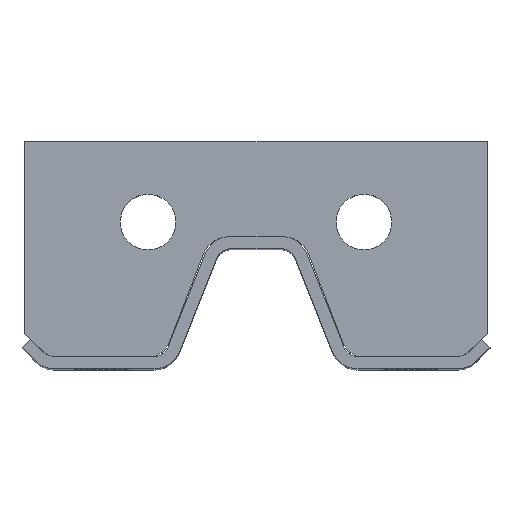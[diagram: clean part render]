
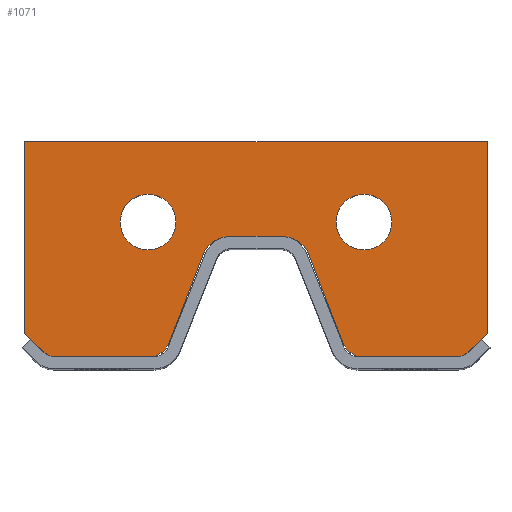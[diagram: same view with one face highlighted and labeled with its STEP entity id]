
A CAD part, top view. The second image highlights one B-rep face of the part: STEP entity #1071.
In plain terms, the highlighted planar face has unit normal (0, 0, 1).
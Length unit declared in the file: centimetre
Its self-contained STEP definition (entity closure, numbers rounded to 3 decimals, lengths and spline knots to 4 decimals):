
#42=FACE_BOUND('',#110,.T.);
#43=FACE_BOUND('',#111,.T.);
#53=FACE_OUTER_BOUND('',#109,.T.);
#109=EDGE_LOOP('',(#734,#735,#736,#737,#738,#739,#740,#741,#742,#743,#744,
#745,#746,#747,#748,#749,#750,#751));
#110=EDGE_LOOP('',(#752));
#111=EDGE_LOOP('',(#753));
#182=LINE('',#1589,#296);
#183=LINE('',#1593,#297);
#184=LINE('',#1597,#298);
#185=LINE('',#1601,#299);
#186=LINE('',#1603,#300);
#187=LINE('',#1605,#301);
#188=LINE('',#1607,#302);
#189=LINE('',#1609,#303);
#190=LINE('',#1613,#304);
#191=LINE('',#1617,#305);
#192=LINE('',#1621,#306);
#193=LINE('',#1622,#307);
#296=VECTOR('',#1260,0.1);
#297=VECTOR('',#1263,0.1);
#298=VECTOR('',#1266,0.1);
#299=VECTOR('',#1269,0.1);
#300=VECTOR('',#1270,0.1);
#301=VECTOR('',#1271,0.1);
#302=VECTOR('',#1272,0.1);
#303=VECTOR('',#1273,0.1);
#304=VECTOR('',#1276,0.1);
#305=VECTOR('',#1279,0.1);
#306=VECTOR('',#1282,0.1);
#307=VECTOR('',#1283,0.1);
#408=CIRCLE('',#1136,0.8);
#409=CIRCLE('',#1137,0.8);
#410=CIRCLE('',#1138,0.8);
#411=CIRCLE('',#1139,0.8);
#412=CIRCLE('',#1140,0.8);
#413=CIRCLE('',#1141,0.8);
#414=CIRCLE('',#1142,0.9);
#415=CIRCLE('',#1143,0.9);
#466=VERTEX_POINT('',#1587);
#467=VERTEX_POINT('',#1588);
#468=VERTEX_POINT('',#1590);
#469=VERTEX_POINT('',#1592);
#470=VERTEX_POINT('',#1594);
#471=VERTEX_POINT('',#1596);
#472=VERTEX_POINT('',#1598);
#473=VERTEX_POINT('',#1600);
#474=VERTEX_POINT('',#1602);
#475=VERTEX_POINT('',#1604);
#476=VERTEX_POINT('',#1606);
#477=VERTEX_POINT('',#1608);
#478=VERTEX_POINT('',#1610);
#479=VERTEX_POINT('',#1612);
#480=VERTEX_POINT('',#1614);
#481=VERTEX_POINT('',#1616);
#482=VERTEX_POINT('',#1618);
#483=VERTEX_POINT('',#1620);
#484=VERTEX_POINT('',#1623);
#485=VERTEX_POINT('',#1625);
#572=EDGE_CURVE('',#466,#467,#182,.T.);
#573=EDGE_CURVE('',#467,#468,#408,.T.);
#574=EDGE_CURVE('',#468,#469,#183,.T.);
#575=EDGE_CURVE('',#469,#470,#409,.T.);
#576=EDGE_CURVE('',#471,#470,#184,.T.);
#577=EDGE_CURVE('',#471,#472,#410,.T.);
#578=EDGE_CURVE('',#472,#473,#185,.T.);
#579=EDGE_CURVE('',#473,#474,#186,.T.);
#580=EDGE_CURVE('',#474,#475,#187,.T.);
#581=EDGE_CURVE('',#475,#476,#188,.T.);
#582=EDGE_CURVE('',#476,#477,#189,.T.);
#583=EDGE_CURVE('',#477,#478,#411,.T.);
#584=EDGE_CURVE('',#479,#478,#190,.T.);
#585=EDGE_CURVE('',#479,#480,#412,.T.);
#586=EDGE_CURVE('',#480,#481,#191,.T.);
#587=EDGE_CURVE('',#481,#482,#413,.T.);
#588=EDGE_CURVE('',#482,#483,#192,.T.);
#589=EDGE_CURVE('',#466,#483,#193,.T.);
#590=EDGE_CURVE('',#484,#484,#414,.T.);
#591=EDGE_CURVE('',#485,#485,#415,.T.);
#734=ORIENTED_EDGE('',*,*,#572,.T.);
#735=ORIENTED_EDGE('',*,*,#573,.T.);
#736=ORIENTED_EDGE('',*,*,#574,.T.);
#737=ORIENTED_EDGE('',*,*,#575,.T.);
#738=ORIENTED_EDGE('',*,*,#576,.F.);
#739=ORIENTED_EDGE('',*,*,#577,.T.);
#740=ORIENTED_EDGE('',*,*,#578,.T.);
#741=ORIENTED_EDGE('',*,*,#579,.T.);
#742=ORIENTED_EDGE('',*,*,#580,.T.);
#743=ORIENTED_EDGE('',*,*,#581,.T.);
#744=ORIENTED_EDGE('',*,*,#582,.T.);
#745=ORIENTED_EDGE('',*,*,#583,.T.);
#746=ORIENTED_EDGE('',*,*,#584,.F.);
#747=ORIENTED_EDGE('',*,*,#585,.T.);
#748=ORIENTED_EDGE('',*,*,#586,.T.);
#749=ORIENTED_EDGE('',*,*,#587,.T.);
#750=ORIENTED_EDGE('',*,*,#588,.T.);
#751=ORIENTED_EDGE('',*,*,#589,.F.);
#752=ORIENTED_EDGE('',*,*,#590,.T.);
#753=ORIENTED_EDGE('',*,*,#591,.T.);
#1041=PLANE('',#1135);
#1071=ADVANCED_FACE('',(#53,#42,#43),#1041,.T.);
#1135=AXIS2_PLACEMENT_3D('',#1586,#1258,#1259);
#1136=AXIS2_PLACEMENT_3D('',#1591,#1261,#1262);
#1137=AXIS2_PLACEMENT_3D('',#1595,#1264,#1265);
#1138=AXIS2_PLACEMENT_3D('',#1599,#1267,#1268);
#1139=AXIS2_PLACEMENT_3D('',#1611,#1274,#1275);
#1140=AXIS2_PLACEMENT_3D('',#1615,#1277,#1278);
#1141=AXIS2_PLACEMENT_3D('',#1619,#1280,#1281);
#1142=AXIS2_PLACEMENT_3D('',#1624,#1284,#1285);
#1143=AXIS2_PLACEMENT_3D('',#1626,#1286,#1287);
#1258=DIRECTION('center_axis',(0.,0.,1.));
#1259=DIRECTION('ref_axis',(1.,0.,0.));
#1260=DIRECTION('',(1.,0.,0.));
#1261=DIRECTION('center_axis',(0.,0.,-1.));
#1262=DIRECTION('ref_axis',(0.566,0.824,0.));
#1263=DIRECTION('',(0.359,-0.933,0.));
#1264=DIRECTION('center_axis',(0.,0.,1.));
#1265=DIRECTION('ref_axis',(-0.566,-0.824,0.));
#1266=DIRECTION('',(-1.,0.,0.));
#1267=DIRECTION('center_axis',(0.,0.,1.));
#1268=DIRECTION('ref_axis',(0.383,-0.924,0.));
#1269=DIRECTION('',(0.707,0.707,0.));
#1270=DIRECTION('',(0.,1.,0.));
#1271=DIRECTION('',(-1.,0.,0.));
#1272=DIRECTION('',(0.,-1.,0.));
#1273=DIRECTION('',(0.707,-0.707,0.));
#1274=DIRECTION('center_axis',(0.,0.,1.));
#1275=DIRECTION('ref_axis',(-0.383,-0.924,0.));
#1276=DIRECTION('',(-1.,0.,0.));
#1277=DIRECTION('center_axis',(0.,0.,1.));
#1278=DIRECTION('ref_axis',(0.566,-0.824,0.));
#1279=DIRECTION('',(0.359,0.933,0.));
#1280=DIRECTION('center_axis',(0.,0.,-1.));
#1281=DIRECTION('ref_axis',(-0.566,0.824,0.));
#1282=DIRECTION('',(1.,0.,0.));
#1283=DIRECTION('',(-1.,0.,0.));
#1284=DIRECTION('center_axis',(0.,0.,-1.));
#1285=DIRECTION('ref_axis',(1.,0.,0.));
#1286=DIRECTION('center_axis',(0.,0.,-1.));
#1287=DIRECTION('ref_axis',(1.,0.,0.));
#1586=CARTESIAN_POINT('Origin',(-55.9958,129.8304,1.));
#1587=CARTESIAN_POINT('',(-55.1851,129.9396,1.));
#1588=CARTESIAN_POINT('',(-55.0452,129.9396,1.));
#1589=CARTESIAN_POINT('',(-56.9463,129.9396,1.));
#1590=CARTESIAN_POINT('',(-54.2985,129.4268,1.));
#1591=CARTESIAN_POINT('Origin',(-55.0452,129.1396,1.));
#1592=CARTESIAN_POINT('',(-53.193,126.5524,1.));
#1593=CARTESIAN_POINT('',(-54.2985,129.4268,1.));
#1594=CARTESIAN_POINT('',(-52.4463,126.0396,1.));
#1595=CARTESIAN_POINT('Origin',(-52.4463,126.8396,1.));
#1596=CARTESIAN_POINT('',(-49.6271,126.0396,1.));
#1597=CARTESIAN_POINT('',(-54.3404,126.0396,1.));
#1598=CARTESIAN_POINT('',(-49.0614,126.2739,1.));
#1599=CARTESIAN_POINT('Origin',(-49.6271,126.8396,1.));
#1600=CARTESIAN_POINT('',(-48.4958,126.8396,1.));
#1601=CARTESIAN_POINT('',(-49.0614,126.2739,1.));
#1602=CARTESIAN_POINT('',(-48.4958,133.0396,1.));
#1603=CARTESIAN_POINT('',(-48.4958,126.8396,1.));
#1604=CARTESIAN_POINT('',(-63.4958,133.0396,1.));
#1605=CARTESIAN_POINT('',(-48.4958,133.0396,1.));
#1606=CARTESIAN_POINT('',(-63.4958,126.8396,1.));
#1607=CARTESIAN_POINT('',(-63.4958,133.0396,1.));
#1608=CARTESIAN_POINT('',(-62.9301,126.2739,1.));
#1609=CARTESIAN_POINT('',(-63.4958,126.8396,1.));
#1610=CARTESIAN_POINT('',(-62.3644,126.0396,1.));
#1611=CARTESIAN_POINT('Origin',(-62.3644,126.8396,1.));
#1612=CARTESIAN_POINT('',(-59.5452,126.0396,1.));
#1613=CARTESIAN_POINT('',(-59.2584,126.0396,1.));
#1614=CARTESIAN_POINT('',(-58.7985,126.5524,1.));
#1615=CARTESIAN_POINT('Origin',(-59.5452,126.8396,1.));
#1616=CARTESIAN_POINT('',(-57.693,129.4268,1.));
#1617=CARTESIAN_POINT('',(-58.7985,126.5524,1.));
#1618=CARTESIAN_POINT('',(-56.9463,129.9396,1.));
#1619=CARTESIAN_POINT('Origin',(-56.9463,129.1396,1.));
#1620=CARTESIAN_POINT('',(-56.8064,129.9396,1.));
#1621=CARTESIAN_POINT('',(-56.9463,129.9396,1.));
#1622=CARTESIAN_POINT('',(-56.4011,129.9396,1.));
#1623=CARTESIAN_POINT('',(-58.5958,130.4396,1.));
#1624=CARTESIAN_POINT('Origin',(-59.4958,130.4396,1.));
#1625=CARTESIAN_POINT('',(-51.5958,130.4396,1.));
#1626=CARTESIAN_POINT('Origin',(-52.4958,130.4396,1.));
